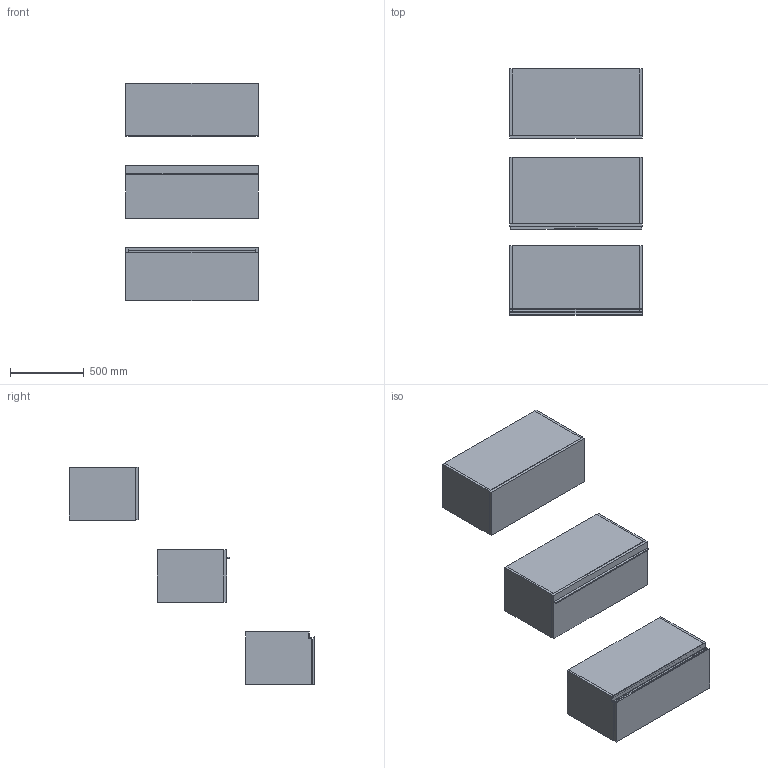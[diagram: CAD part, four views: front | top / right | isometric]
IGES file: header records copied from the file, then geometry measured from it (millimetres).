
Start section: Data from Parasolid IGES Translator 19.0.9, Copyright(c) 2006 Siemens PL M Software. All Rights Reserved.
Global section: file name: noorth-SI-H 36 D 47 W 90_8352.igs; native system: By Siemens PLM Incorporated; preprocessor: XPlus GENERIC/IGES 19.0.9; author: Noname; organization: Noname; date: 20200601.093600; units: metre
Bounding box: 900.01 x 1669.1 x 1480 mm (x, y, z)
Volume: 72973383.1 mm3; surface area: 10881219.9 mm2
Topology: 20 solids, 20 shells, 178 faces, 382 edges, 234 vertices
Faces by surface type: plane 134, extrusion 16, bspline 16, cylinder 12
